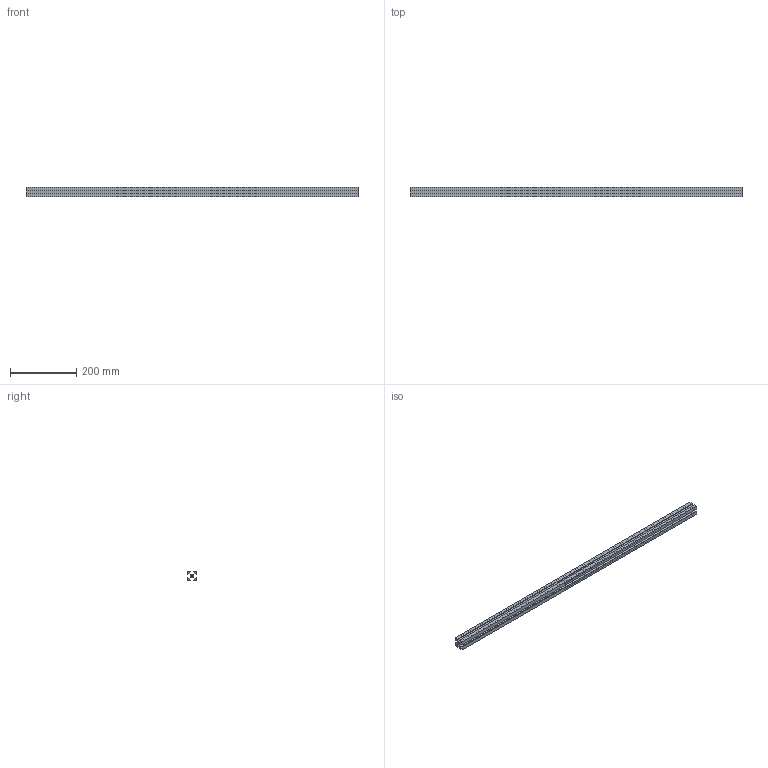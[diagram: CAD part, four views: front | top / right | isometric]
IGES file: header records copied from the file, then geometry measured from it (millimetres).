
Global section: file name: perfil 30x30; native system: unknown; preprocessor: unknown; author: unknown; organization: unknown; date: 20240315.124351; units: millimetre
Bounding box: 1000 x 30 x 30 mm (x, y, z)
Volume: 378439.2 mm3; surface area: 283383.8 mm2
Topology: 1 solids, 1 shells, 39 faces, 111 edges, 74 vertices
Faces by surface type: bspline 39
